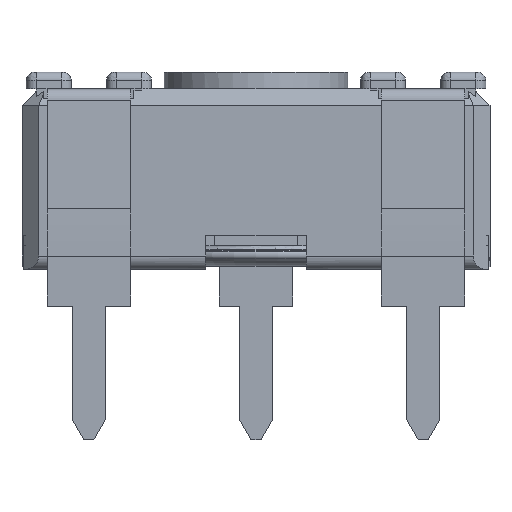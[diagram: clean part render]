
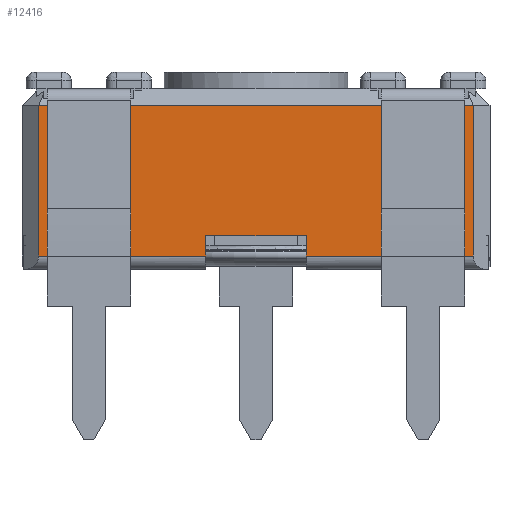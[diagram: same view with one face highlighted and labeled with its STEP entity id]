
A CAD part, front view. The second image highlights one B-rep face of the part: STEP entity #12416.
In plain terms, the highlighted planar face has unit normal (0, -1, 0).
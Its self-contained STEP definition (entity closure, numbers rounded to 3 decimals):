
#1217=FACE_OUTER_BOUND('',#1841,.T.);
#1841=EDGE_LOOP('',(#10453,#10454,#10455,#10456,#10457,#10458,#10459,#10460));
#2774=LINE('',#19416,#4069);
#2782=LINE('',#19433,#4077);
#2799=LINE('',#19476,#4094);
#2800=LINE('',#19481,#4095);
#3076=LINE('',#20270,#4371);
#3088=LINE('',#20292,#4383);
#3111=LINE('',#20345,#4406);
#3116=LINE('',#20354,#4411);
#4069=VECTOR('',#15666,10.);
#4077=VECTOR('',#15678,10.);
#4094=VECTOR('',#15715,10.);
#4095=VECTOR('',#15722,10.);
#4371=VECTOR('',#16448,10.);
#4383=VECTOR('',#16470,10.);
#4406=VECTOR('',#16517,10.);
#4411=VECTOR('',#16526,10.);
#5289=VERTEX_POINT('',#19413);
#5290=VERTEX_POINT('',#19415);
#5297=VERTEX_POINT('',#19431);
#5312=VERTEX_POINT('',#19473);
#5313=VERTEX_POINT('',#19475);
#5314=VERTEX_POINT('',#19479);
#5570=VERTEX_POINT('',#20269);
#5583=VERTEX_POINT('',#20343);
#6805=EDGE_CURVE('',#5289,#5290,#2774,.T.);
#6814=EDGE_CURVE('',#5289,#5297,#2782,.T.);
#6835=EDGE_CURVE('',#5312,#5313,#2799,.T.);
#6838=EDGE_CURVE('',#5313,#5314,#2800,.T.);
#7222=EDGE_CURVE('',#5570,#5290,#3076,.T.);
#7234=EDGE_CURVE('',#5312,#5570,#3088,.T.);
#7258=EDGE_CURVE('',#5583,#5297,#3111,.T.);
#7263=EDGE_CURVE('',#5314,#5583,#3116,.T.);
#10453=ORIENTED_EDGE('',*,*,#6805,.F.);
#10454=ORIENTED_EDGE('',*,*,#6814,.T.);
#10455=ORIENTED_EDGE('',*,*,#7258,.F.);
#10456=ORIENTED_EDGE('',*,*,#7263,.F.);
#10457=ORIENTED_EDGE('',*,*,#6838,.F.);
#10458=ORIENTED_EDGE('',*,*,#6835,.F.);
#10459=ORIENTED_EDGE('',*,*,#7234,.T.);
#10460=ORIENTED_EDGE('',*,*,#7222,.T.);
#11229=PLANE('',#13416);
#12416=ADVANCED_FACE('',(#1217),#11229,.T.);
#13416=AXIS2_PLACEMENT_3D('',#20353,#16524,#16525);
#15666=DIRECTION('',(-1.,0.,0.));
#15678=DIRECTION('',(0.,0.,1.));
#15715=DIRECTION('',(0.,0.,-1.));
#15722=DIRECTION('',(-1.,0.,0.));
#16448=DIRECTION('',(0.,0.,-1.));
#16470=DIRECTION('',(1.,0.,0.));
#16517=DIRECTION('',(1.,0.,0.));
#16524=DIRECTION('center_axis',(0.,-1.,0.));
#16525=DIRECTION('ref_axis',(1.,0.,0.));
#16526=DIRECTION('',(0.,0.,1.));
#19413=CARTESIAN_POINT('',(-3.655,0.3,-0.6));
#19415=CARTESIAN_POINT('',(-8.655,0.3,-0.6));
#19416=CARTESIAN_POINT('',(-11.325,0.3,-0.6));
#19431=CARTESIAN_POINT('',(-3.655,0.3,3.9));
#19433=CARTESIAN_POINT('',(-3.655,0.3,0.));
#19473=CARTESIAN_POINT('',(-11.655,0.3,0.));
#19475=CARTESIAN_POINT('',(-11.655,0.3,-0.6));
#19476=CARTESIAN_POINT('',(-11.655,0.3,-0.3));
#19479=CARTESIAN_POINT('',(-16.655,0.3,-0.6));
#19481=CARTESIAN_POINT('',(-15.484,0.3,-0.6));
#20269=CARTESIAN_POINT('',(-8.655,0.3,0.));
#20270=CARTESIAN_POINT('',(-8.655,0.3,0.));
#20292=CARTESIAN_POINT('',(-16.655,0.3,0.));
#20343=CARTESIAN_POINT('',(-16.655,0.3,3.9));
#20345=CARTESIAN_POINT('',(-13.405,0.3,3.9));
#20353=CARTESIAN_POINT('Origin',(-16.655,0.3,0.));
#20354=CARTESIAN_POINT('',(-16.655,0.3,0.));
